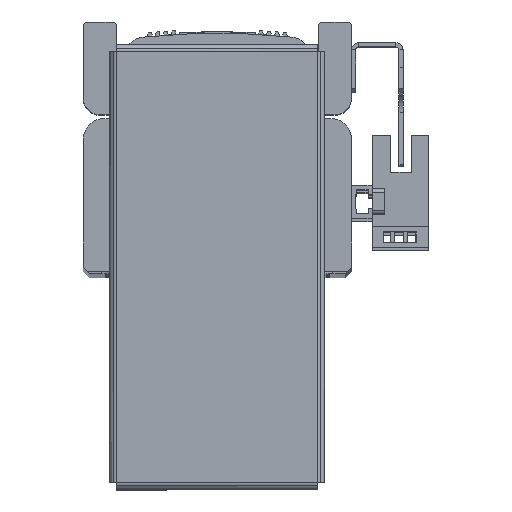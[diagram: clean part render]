
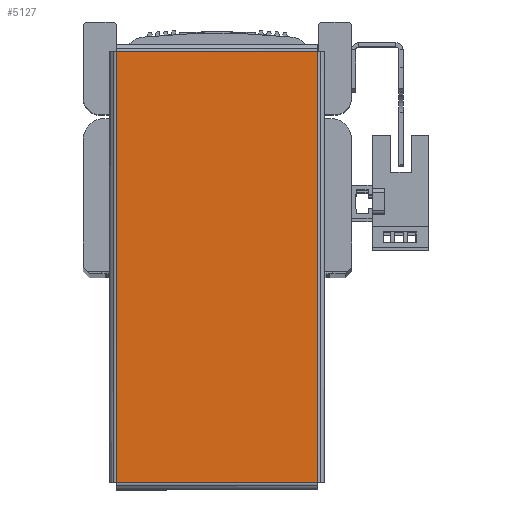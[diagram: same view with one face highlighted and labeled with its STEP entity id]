
A CAD part, top view. The second image highlights one B-rep face of the part: STEP entity #5127.
In plain terms, the highlighted planar face has unit normal (0, 0, 1) as drawn and (0, 0, -1) by its records, which use the part's own axes.
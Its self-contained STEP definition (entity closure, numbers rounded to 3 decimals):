
#5127 = ADVANCED_FACE ( 'NONE', ( #25344 ), #30154, .F. ) ;
#7603 = AXIS2_PLACEMENT_3D ( 'NONE', #30155, #30183, #30188 ) ;
#9685 = EDGE_LOOP ( 'NONE', ( #29204, #29272, #29285, #29225 ) ) ;
#13850 = VECTOR ( 'NONE', #15077, 1000. ) ;
#13896 = LINE ( 'NONE', #15115, #13850 ) ;
#13911 = LINE ( 'NONE', #15131, #13916 ) ;
#13916 = VECTOR ( 'NONE', #15134, 1000. ) ;
#13977 = LINE ( 'NONE', #15245, #13980 ) ;
#13980 = VECTOR ( 'NONE', #15237, 1000. ) ;
#13997 = VECTOR ( 'NONE', #15251, 1000. ) ;
#14010 = LINE ( 'NONE', #15230, #13997 ) ;
#15077 = DIRECTION ( 'NONE',  ( -1., 0., 0. ) ) ;
#15115 = CARTESIAN_POINT ( 'NONE',  ( 52.293, -24.363, -1. ) ) ;
#15131 = CARTESIAN_POINT ( 'NONE',  ( -52.293, 24.363, -1. ) ) ;
#15134 = DIRECTION ( 'NONE',  ( 1., 0., 0. ) ) ;
#15230 = CARTESIAN_POINT ( 'NONE',  ( -52.263, -24.393, -1. ) ) ;
#15237 = DIRECTION ( 'NONE',  ( 0., -1., 0. ) ) ;
#15245 = CARTESIAN_POINT ( 'NONE',  ( 52.263, 24.393, -1. ) ) ;
#15251 = DIRECTION ( 'NONE',  ( 0., 1., 0. ) ) ;
#19513 = CARTESIAN_POINT ( 'NONE',  ( 52.263, 24.363, -1. ) ) ;
#19527 = CARTESIAN_POINT ( 'NONE',  ( -52.263, 24.363, -1. ) ) ;
#19555 = CARTESIAN_POINT ( 'NONE',  ( 52.263, -24.363, -1. ) ) ;
#19570 = CARTESIAN_POINT ( 'NONE',  ( -52.263, -24.363, -1. ) ) ;
#20795 = VERTEX_POINT ( 'NONE', #19513 ) ;
#20838 = VERTEX_POINT ( 'NONE', #19527 ) ;
#20844 = VERTEX_POINT ( 'NONE', #19570 ) ;
#20893 = VERTEX_POINT ( 'NONE', #19555 ) ;
#22855 = EDGE_CURVE ( 'NONE', #20893, #20844, #13896, .T. ) ;
#22879 = EDGE_CURVE ( 'NONE', #20838, #20795, #13911, .T. ) ;
#22912 = EDGE_CURVE ( 'NONE', #20795, #20893, #13977, .T. ) ;
#22916 = EDGE_CURVE ( 'NONE', #20844, #20838, #14010, .T. ) ;
#25344 = FACE_OUTER_BOUND ( 'NONE', #9685, .T. ) ;
#29204 = ORIENTED_EDGE ( 'NONE', *, *, #22912, .T. ) ;
#29225 = ORIENTED_EDGE ( 'NONE', *, *, #22879, .T. ) ;
#29272 = ORIENTED_EDGE ( 'NONE', *, *, #22855, .T. ) ;
#29285 = ORIENTED_EDGE ( 'NONE', *, *, #22916, .T. ) ;
#30154 = PLANE ( 'NONE',  #7603 ) ;
#30155 = CARTESIAN_POINT ( 'NONE',  ( 0., 0., -1. ) ) ;
#30183 = DIRECTION ( 'NONE',  ( 0., 0., 1. ) ) ;
#30188 = DIRECTION ( 'NONE',  ( 1., 0., 0. ) ) ;
